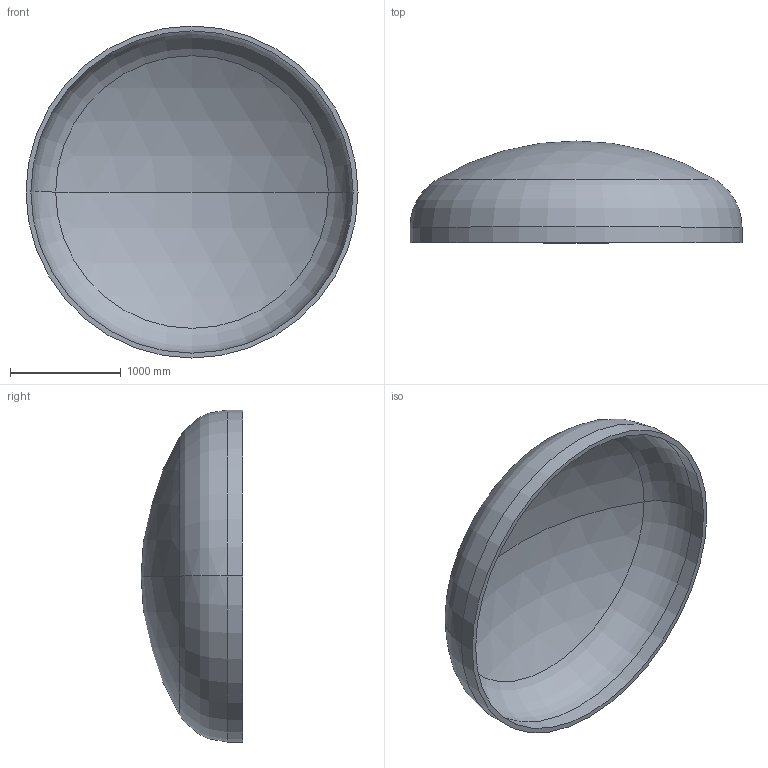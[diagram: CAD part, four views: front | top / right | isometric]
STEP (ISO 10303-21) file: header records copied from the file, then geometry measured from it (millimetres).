
FILE_DESCRIPTION (( 'STEP AP203' ), '1' );
FILE_NAME ('DIN 28013 Korbbogenform_-_Boden DIN 28013 - 3000 x 140 - I - s=44.step', '2016-07-01T17:48:23', ( '' ), ( '' ), 'SwSTEP 2.0', 'SolidWorks 2013', '' );
FILE_SCHEMA (( 'CONFIG_CONTROL_DESIGN' ));
Length unit declared in the file: millimetre
Products named in the file (1): DIN 28013 Korbbogenform_-_Boden DIN 28013 - 3000 x 140 - I - s=44
Bounding box: 3000 x 919.19 x 3000 mm (x, y, z)
Volume: 479335108.7 mm3; surface area: 22200614.8 mm2
Topology: 1 solids, 1 shells, 13 faces, 24 edges, 14 vertices
Faces by surface type: torus 4, cylinder 4, sphere 4, plane 1
Entity records: 407 total; most frequent: DIRECTION 72, CARTESIAN_POINT 52, ORIENTED_EDGE 48, AXIS2_PLACEMENT_3D 34, EDGE_CURVE 24, CIRCLE 20, EDGE_LOOP 14, VERTEX_POINT 14
